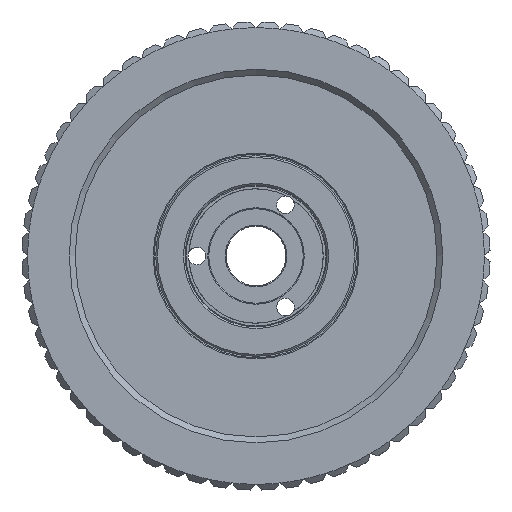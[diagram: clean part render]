
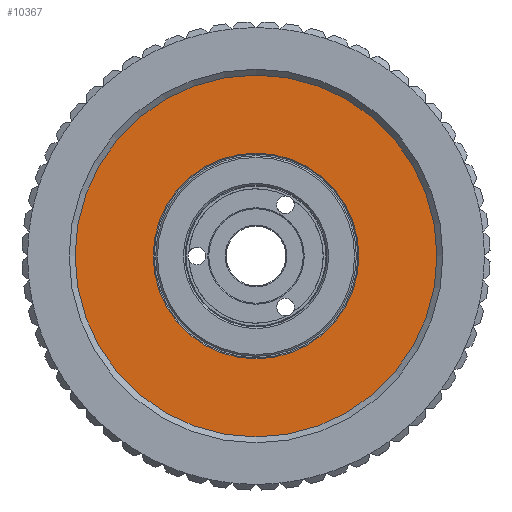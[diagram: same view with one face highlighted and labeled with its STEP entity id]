
A CAD part, left-side view. The second image highlights one B-rep face of the part: STEP entity #10367.
In plain terms, the highlighted planar face has unit normal (-1, 0, 0) as drawn and (1, 0, 0) by its records, which use the part's own axes.
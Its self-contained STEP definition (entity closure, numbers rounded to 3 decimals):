
#2006=FACE_OUTER_BOUND('',#3548,.T.);
#3439=FACE_BOUND('',#3549,.T.);
#3548=EDGE_LOOP('',(#7082));
#3549=EDGE_LOOP('',(#7083));
#4270=CIRCLE('',#11033,26.15);
#4272=CIRCLE('',#11036,46.);
#4680=VERTEX_POINT('',#15067);
#4682=VERTEX_POINT('',#15072);
#5606=EDGE_CURVE('',#4680,#4680,#4270,.T.);
#5608=EDGE_CURVE('',#4682,#4682,#4272,.T.);
#7082=ORIENTED_EDGE('',*,*,#5608,.T.);
#7083=ORIENTED_EDGE('',*,*,#5606,.F.);
#9998=PLANE('',#11035);
#10367=ADVANCED_FACE('',(#2006,#3439),#9998,.T.);
#11033=AXIS2_PLACEMENT_3D('',#15068,#12138,#12139);
#11035=AXIS2_PLACEMENT_3D('',#15071,#12142,#12143);
#11036=AXIS2_PLACEMENT_3D('',#15073,#12144,#12145);
#12138=DIRECTION('center_axis',(1.,0.,0.));
#12139=DIRECTION('ref_axis',(0.,-1.,0.));
#12142=DIRECTION('center_axis',(1.,0.,0.));
#12143=DIRECTION('ref_axis',(0.,0.,-1.));
#12144=DIRECTION('center_axis',(1.,0.,0.));
#12145=DIRECTION('ref_axis',(0.,1.,0.));
#15067=CARTESIAN_POINT('',(33.514,26.15,0.));
#15068=CARTESIAN_POINT('Origin',(33.514,0.,
0.));
#15071=CARTESIAN_POINT('Origin',(33.514,35.95,0.));
#15072=CARTESIAN_POINT('',(33.514,46.,0.));
#15073=CARTESIAN_POINT('Origin',(33.514,0.,
0.));
